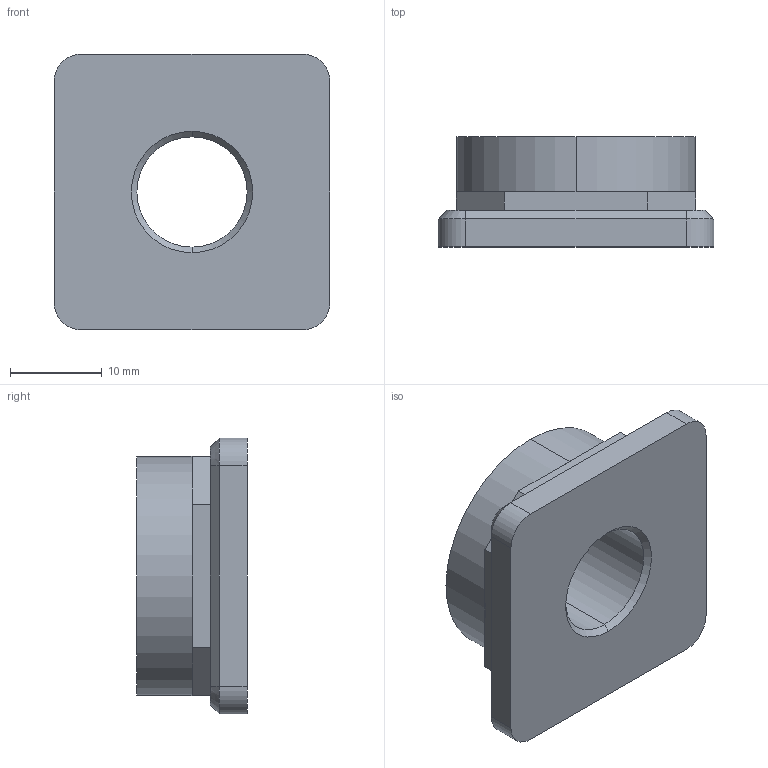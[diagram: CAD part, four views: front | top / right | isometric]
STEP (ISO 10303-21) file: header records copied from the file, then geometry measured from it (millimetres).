
FILE_DESCRIPTION (( 'STEP AP203' ), '1' );
FILE_NAME ('34670.W0030.step', '2017-06-26T08:12:19', ( 'User' ), ( '' ), 'SwSTEP 2.0', 'SolidWorks 2009', '' );
FILE_SCHEMA (( 'CONFIG_CONTROL_DESIGN' ));
Length unit declared in the file: millimetre
Products named in the file (1): 34670.W0030
Bounding box: 30 x 12 x 30 mm (x, y, z)
Volume: 6575.3 mm3; surface area: 3052.5 mm2
Topology: 1 solids, 1 shells, 39 faces, 90 edges, 54 vertices
Faces by surface type: plane 23, cone 8, cylinder 8
Entity records: 1167 total; most frequent: DIRECTION 196, CARTESIAN_POINT 184, ORIENTED_EDGE 180, EDGE_CURVE 90, AXIS2_PLACEMENT_3D 66, VECTOR 64, LINE 64, VERTEX_POINT 54
